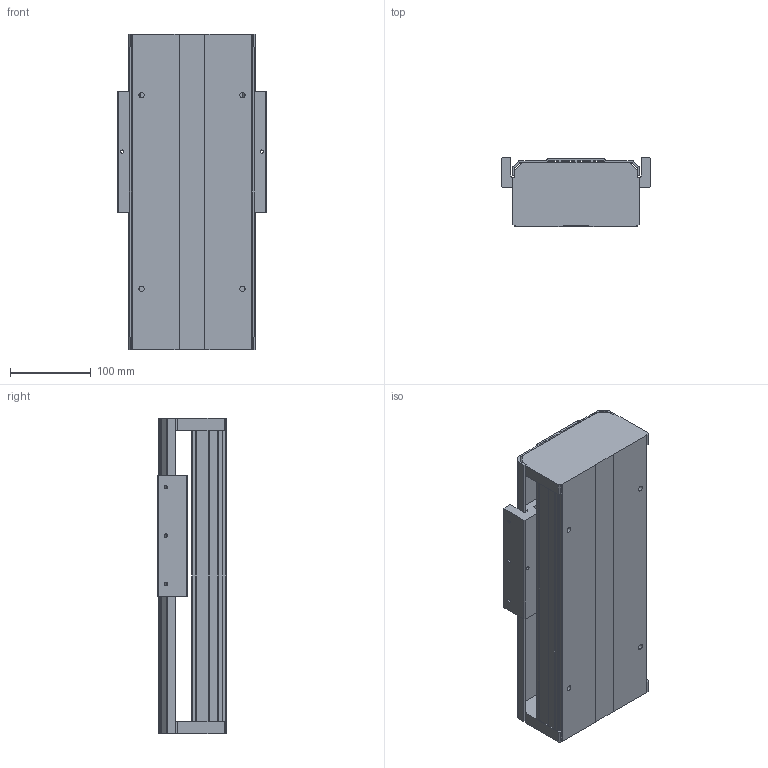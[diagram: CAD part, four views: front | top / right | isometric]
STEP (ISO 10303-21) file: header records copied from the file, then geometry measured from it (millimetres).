
FILE_DESCRIPTION (( 'STEP AP203' ), '1' );
FILE_NAME ('RF15-3-1-S.STEP', '2008-11-20T08:43:35', ( 'user' ), ( 'Robostar' ), 'SwSTEP 2.0', 'SolidWorks 2007', '' );
FILE_SCHEMA (( 'CONFIG_CONTROL_DESIGN' ));
Length unit declared in the file: millimetre
Products named in the file (1): RF15-3-1-S
Bounding box: 185 x 85 x 390 mm (x, y, z)
Volume: 1987869.7 mm3; surface area: 581577.1 mm2
Topology: 3 solids, 7 shells, 383 faces, 1093 edges, 722 vertices
Faces by surface type: plane 228, cylinder 147, cone 8
Entity records: 12934 total; most frequent: CARTESIAN_POINT 2675, ORIENTED_EDGE 2170, DIRECTION 2083, EDGE_CURVE 1085, VECTOR 775, LINE 775, VERTEX_POINT 722, AXIS2_PLACEMENT_3D 654
